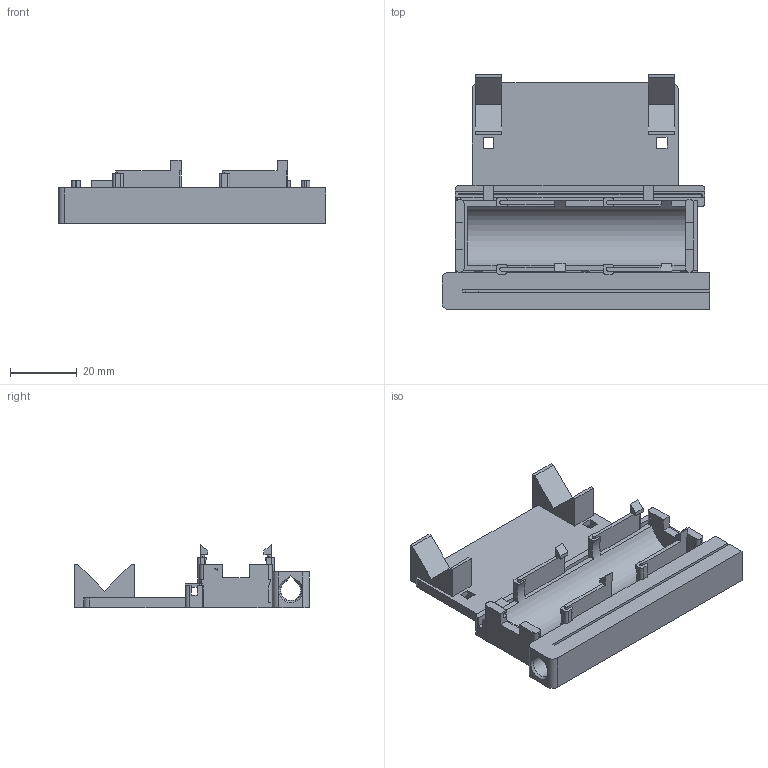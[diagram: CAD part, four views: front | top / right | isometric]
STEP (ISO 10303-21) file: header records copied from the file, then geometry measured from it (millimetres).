
FILE_DESCRIPTION(('Open CASCADE Model'),'2;1');
FILE_NAME('Open CASCADE Shape Model','2026-10-21T17:27:38',('Author'),( 'Open CASCADE'),'Open CASCADE STEP processor 7.9','Open CASCADE 7.9' ,'Unknown');
FILE_SCHEMA(('AUTOMOTIVE_DESIGN { 1 0 10303 214 1 1 1 1 }'));
Length unit declared in the file: millimetre
Products named in the file (1): Open CASCADE STEP translator 7.9 9
Bounding box: 80.5 x 70.6 x 19.1 mm (x, y, z)
Volume: 24051.9 mm3; surface area: 20219.5 mm2
Topology: 1 solids, 2 shells, 306 faces, 935 edges, 618 vertices
Faces by surface type: plane 222, cylinder 82, sphere 1, cone 1
Full cylindrical faces by diameter (mm): 1.64 x2
Entity records: 24066 total; most frequent: CARTESIAN_POINT 6752, DIRECTION 2865, ORIENTED_EDGE 1868, PCURVE 1868, DEFINITIONAL_REPRESENTATION 1868, LINE 1692, VECTOR 1692, EDGE_CURVE 934
